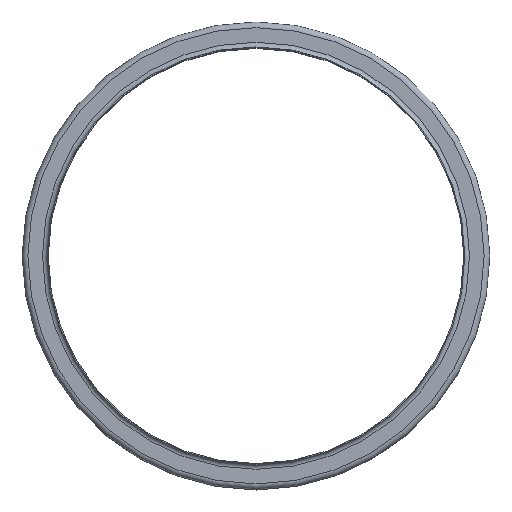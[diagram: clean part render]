
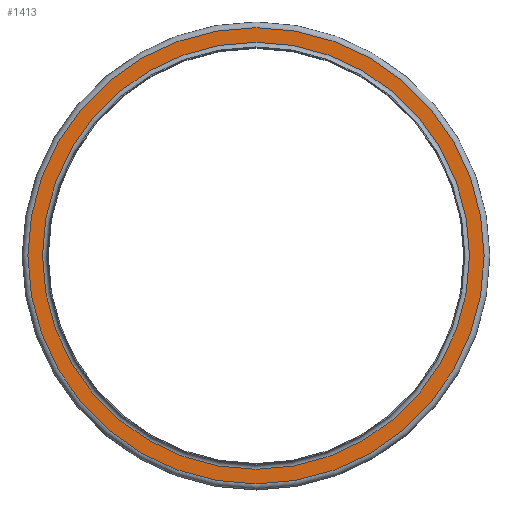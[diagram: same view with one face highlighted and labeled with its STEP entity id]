
A CAD part, top view. The second image highlights one B-rep face of the part: STEP entity #1413.
In plain terms, the highlighted planar face has unit normal (0, 0, 1).
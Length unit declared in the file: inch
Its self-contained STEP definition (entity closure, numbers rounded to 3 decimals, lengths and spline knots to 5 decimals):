
#127=FACE_BOUND('',#381,.T.);
#226=FACE_OUTER_BOUND('',#380,.T.);
#380=EDGE_LOOP('',(#1105));
#381=EDGE_LOOP('',(#1106));
#542=CIRCLE('',#1682,10.274);
#543=CIRCLE('',#1684,10.976);
#655=VERTEX_POINT('',#2578);
#656=VERTEX_POINT('',#2582);
#808=EDGE_CURVE('',#655,#655,#542,.T.);
#809=EDGE_CURVE('',#656,#656,#543,.T.);
#1105=ORIENTED_EDGE('',*,*,#809,.F.);
#1106=ORIENTED_EDGE('',*,*,#808,.T.);
#1203=PLANE('',#1683);
#1413=ADVANCED_FACE('',(#226,#127),#1203,.T.);
#1682=AXIS2_PLACEMENT_3D('',#2580,#2178,#2179);
#1683=AXIS2_PLACEMENT_3D('',#2581,#2180,#2181);
#1684=AXIS2_PLACEMENT_3D('',#2583,#2182,#2183);
#2178=DIRECTION('center_axis',(0.,0.,-1.));
#2179=DIRECTION('ref_axis',(1.,0.,0.));
#2180=DIRECTION('center_axis',(0.,0.,1.));
#2181=DIRECTION('ref_axis',(1.,0.,0.));
#2182=DIRECTION('center_axis',(0.,0.,-1.));
#2183=DIRECTION('ref_axis',(1.,0.,0.));
#2578=CARTESIAN_POINT('',(10.274,0.,-0.226));
#2580=CARTESIAN_POINT('Origin',(0.,0.,-0.226));
#2581=CARTESIAN_POINT('Origin',(0.,10.976,-0.226));
#2582=CARTESIAN_POINT('',(10.976,0.,-0.226));
#2583=CARTESIAN_POINT('Origin',(0.,0.,-0.226));
